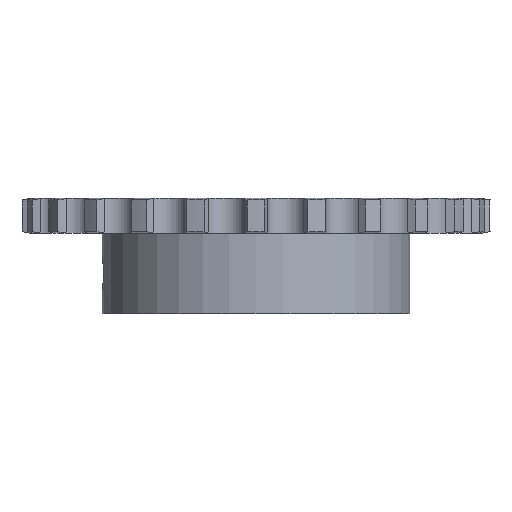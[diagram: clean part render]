
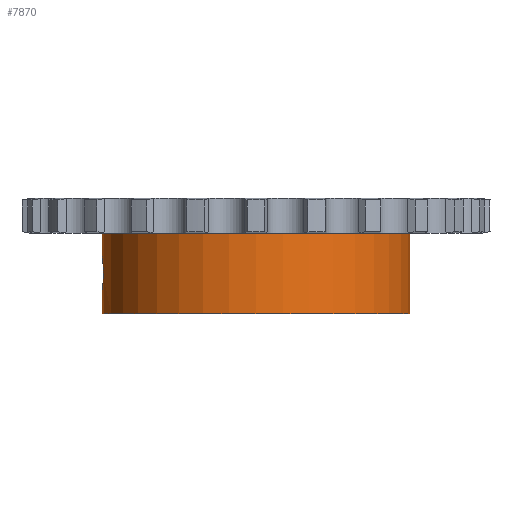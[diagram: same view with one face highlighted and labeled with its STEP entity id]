
A CAD part, front view. The second image highlights one B-rep face of the part: STEP entity #7870.
In plain terms, the highlighted cylindrical face has radius 40 mm (diameter 80 mm), a partial arc.
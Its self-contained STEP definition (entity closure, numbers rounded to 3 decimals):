
#1439=CARTESIAN_POINT('',(0.,0.,-4.55));
#1440=DIRECTION('',(0.,0.,1.));
#1441=DIRECTION('',(-1.,0.,0.));
#1442=AXIS2_PLACEMENT_3D('',#1439,#1440,#1441);
#3961=CARTESIAN_POINT('',(-40.,0.,
-10.));
#3985=DIRECTION('',(0.,0.,1.));
#3986=VECTOR('',#3985,20.9);
#3987=CARTESIAN_POINT('',(40.,0.,-25.45));
#3988=LINE('',#3987,#3986);
#4112=CARTESIAN_POINT('',(-40.,0.,
-10.));
#4113=CARTESIAN_POINT('',(-40.,-0.201,
-10.));
#4114=CARTESIAN_POINT('',(-39.997,-0.631,
-10.025));
#4115=CARTESIAN_POINT('',(-39.981,-1.287,
-10.146));
#4116=CARTESIAN_POINT('',(-39.954,-1.947,
-10.363));
#4117=CARTESIAN_POINT('',(-39.919,-2.57,
-10.665));
#4118=CARTESIAN_POINT('',(-39.878,-3.144,
-11.046));
#4119=CARTESIAN_POINT('',(-39.833,-3.658,
-11.497));
#4120=CARTESIAN_POINT('',(-39.79,-4.104,
-12.011));
#4121=CARTESIAN_POINT('',(-39.749,-4.476,
-12.578));
#4122=CARTESIAN_POINT('',(-39.715,-4.766,
-13.19));
#4123=CARTESIAN_POINT('',(-39.69,-4.969,
-13.83));
#4124=CARTESIAN_POINT('',(-39.677,-5.075,
-14.438));
#4125=CARTESIAN_POINT('',(-39.674,-5.096,
-14.828));
#4126=CARTESIAN_POINT('',(-39.674,-5.096,
-15.));
#4131=DIRECTION('',(0.,0.,1.));
#4132=VECTOR('',#4131,5.45);
#4133=CARTESIAN_POINT('',(-40.,0.,
-10.));
#4134=LINE('',#4133,#4132);
#4138=DIRECTION('',(0.,0.,1.));
#4139=VECTOR('',#4138,5.45);
#4140=CARTESIAN_POINT('',(-40.,0.,-25.45));
#4141=LINE('',#4140,#4139);
#4145=CARTESIAN_POINT('',(-39.674,-5.096,
-15.));
#4146=CARTESIAN_POINT('',(-39.674,-5.096,
-15.183));
#4147=CARTESIAN_POINT('',(-39.677,-5.073,
-15.584));
#4148=CARTESIAN_POINT('',(-39.691,-4.962,
-16.201));
#4149=CARTESIAN_POINT('',(-39.717,-4.756,
-16.837));
#4150=CARTESIAN_POINT('',(-39.751,-4.463,
-17.444));
#4151=CARTESIAN_POINT('',(-39.791,-4.09,
-18.007));
#4152=CARTESIAN_POINT('',(-39.835,-3.644,
-18.517));
#4153=CARTESIAN_POINT('',(-39.879,-3.131,
-18.964));
#4154=CARTESIAN_POINT('',(-39.92,-2.559,
-19.341));
#4155=CARTESIAN_POINT('',(-39.955,-1.938,
-19.641));
#4156=CARTESIAN_POINT('',(-39.981,-1.281,
-19.855));
#4157=CARTESIAN_POINT('',(-39.997,-0.628,
-19.975));
#4158=CARTESIAN_POINT('',(-40.,-0.2,
-20.));
#4159=CARTESIAN_POINT('',(-40.,0.,
-20.));
#4172=CARTESIAN_POINT('',(0.,0.,-25.45));
#4173=DIRECTION('',(0.,0.,-1.));
#4174=DIRECTION('',(1.,0.,0.));
#4175=AXIS2_PLACEMENT_3D('',#4172,#4173,#4174);
#4589=CARTESIAN_POINT('',(-40.,0.,-25.45));
#4590=CARTESIAN_POINT('',(40.,0.,-25.45));
#4591=VERTEX_POINT('',#4589);
#4592=VERTEX_POINT('',#4590);
#4593=CARTESIAN_POINT('',(40.,0.,-4.55));
#4594=VERTEX_POINT('',#4593);
#4595=CARTESIAN_POINT('',(-40.,0.,-4.55));
#4596=VERTEX_POINT('',#4595);
#4868=VERTEX_POINT('',#3961);
#4871=VERTEX_POINT('',#4126);
#4873=VERTEX_POINT('',#4159);
#7854=CARTESIAN_POINT('',(0.,0.,4.55));
#7855=DIRECTION('',(0.,0.,1.));
#7856=DIRECTION('',(1.,0.,0.));
#7857=AXIS2_PLACEMENT_3D('',#7854,#7855,#7856);
#7858=CYLINDRICAL_SURFACE('',#7857,40.);
#7859=ORIENTED_EDGE('',*,*,#7844,.F.);
#7860=ORIENTED_EDGE('',*,*,#7407,.T.);
#7861=ORIENTED_EDGE('',*,*,#6462,.T.);
#7862=ORIENTED_EDGE('',*,*,#7404,.F.);
#7864=ORIENTED_EDGE('',*,*,#7863,.T.);
#7865=ORIENTED_EDGE('',*,*,#7400,.T.);
#7867=ORIENTED_EDGE('',*,*,#7866,.F.);
#7868=EDGE_LOOP('',(#7859,#7860,#7861,#7862,#7864,#7865,#7867));
#7869=FACE_OUTER_BOUND('',#7868,.F.);
#7870=ADVANCED_FACE('',(#7869),#7858,.T.);
#1443=CIRCLE('',#1442,40.);
#4127=B_SPLINE_CURVE_WITH_KNOTS('',3,(#4112,#4113,#4114,#4115,#4116,#4117,#4118,
#4119,#4120,#4121,#4122,#4123,#4124,#4125,#4126),.UNSPECIFIED.,.F.,.F.,(4,1,1,1,
1,1,1,1,1,1,1,1,4),(0.,0.075,0.161,0.247,
0.332,0.418,0.504,0.589,
0.675,0.76,0.846,0.932,1.),
.UNSPECIFIED.);
#4160=B_SPLINE_CURVE_WITH_KNOTS('',3,(#4145,#4146,#4147,#4148,#4149,#4150,#4151,
#4152,#4153,#4154,#4155,#4156,#4157,#4158,#4159),.UNSPECIFIED.,.F.,.F.,(4,1,1,1,
1,1,1,1,1,1,1,1,4),(0.,0.073,0.158,0.243,
0.329,0.414,0.499,0.584,
0.669,0.755,0.84,0.925,1.),
.UNSPECIFIED.);
#4176=CIRCLE('',#4175,40.);
#6462=EDGE_CURVE('',#4596,#4594,#1443,.T.);
#7400=EDGE_CURVE('',#4591,#4873,#4141,.T.);
#7404=EDGE_CURVE('',#4592,#4594,#3988,.T.);
#7407=EDGE_CURVE('',#4868,#4596,#4134,.T.);
#7844=EDGE_CURVE('',#4868,#4871,#4127,.T.);
#7863=EDGE_CURVE('',#4592,#4591,#4176,.T.);
#7866=EDGE_CURVE('',#4871,#4873,#4160,.T.);
